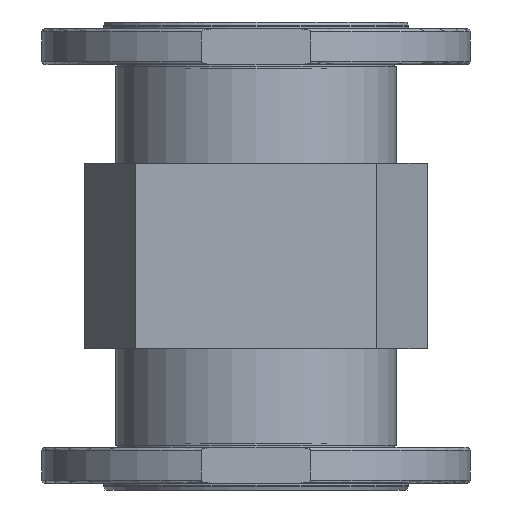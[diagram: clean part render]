
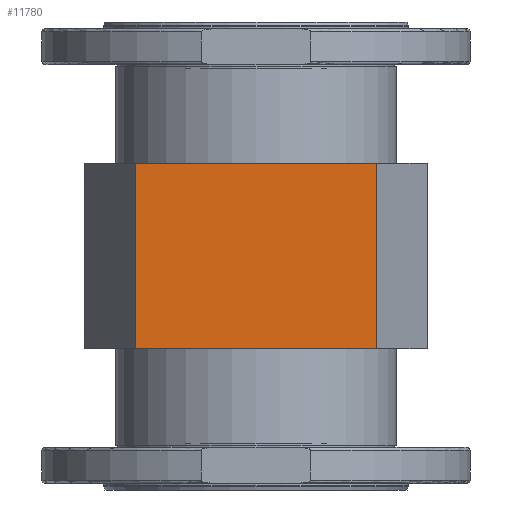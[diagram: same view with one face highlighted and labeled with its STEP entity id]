
A CAD part, front view. The second image highlights one B-rep face of the part: STEP entity #11780.
In plain terms, the highlighted planar face has unit normal (0, -1, 0).
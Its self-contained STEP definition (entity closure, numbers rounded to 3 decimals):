
#292 = CARTESIAN_POINT ( 'NONE',  ( -84.516, -135., 65. ) ) ;
#417 = CARTESIAN_POINT ( 'NONE',  ( -84.516, -135., -65. ) ) ;
#1361 = LINE ( 'NONE', #292, #15894 ) ;
#1367 = VECTOR ( 'NONE', #1883, 1000. ) ;
#1512 = EDGE_CURVE ( 'NONE', #17947, #4610, #8585, .T. ) ;
#1552 = ORIENTED_EDGE ( 'NONE', *, *, #1512, .T. ) ;
#1883 = DIRECTION ( 'NONE',  ( 0., 0., -1. ) ) ;
#2193 = DIRECTION ( 'NONE',  ( 1., 0., 0. ) ) ;
#2338 = EDGE_CURVE ( 'NONE', #14047, #17947, #18290, .T. ) ;
#2382 = CARTESIAN_POINT ( 'NONE',  ( 84.516, -135., -65. ) ) ;
#3549 = VECTOR ( 'NONE', #5037, 1000. ) ;
#3800 = CARTESIAN_POINT ( 'NONE',  ( 84.516, -135., 65. ) ) ;
#4610 = VERTEX_POINT ( 'NONE', #2382 ) ;
#5037 = DIRECTION ( 'NONE',  ( 1., 0., 0. ) ) ;
#5300 = CARTESIAN_POINT ( 'NONE',  ( -84.516, -135., -65. ) ) ;
#6090 = CARTESIAN_POINT ( 'NONE',  ( -84.516, -135., 65. ) ) ;
#6334 = ORIENTED_EDGE ( 'NONE', *, *, #2338, .T. ) ;
#7417 = CARTESIAN_POINT ( 'NONE',  ( -84.516, -135., 65. ) ) ;
#7999 = DIRECTION ( 'NONE',  ( -1., 0., 0. ) ) ;
#8037 = CARTESIAN_POINT ( 'NONE',  ( 84.516, -135., 65. ) ) ;
#8188 = ORIENTED_EDGE ( 'NONE', *, *, #23304, .F. ) ;
#8585 = LINE ( 'NONE', #417, #3549 ) ;
#9799 = VERTEX_POINT ( 'NONE', #8037 ) ;
#11780 = ADVANCED_FACE ( 'NONE', ( #13928 ), #21146, .F. ) ;
#12256 = ORIENTED_EDGE ( 'NONE', *, *, #18651, .F. ) ;
#13598 = DIRECTION ( 'NONE',  ( 0., 0., -1. ) ) ;
#13928 = FACE_OUTER_BOUND ( 'NONE', #18796, .T. ) ;
#14047 = VERTEX_POINT ( 'NONE', #7417 ) ;
#15507 = CARTESIAN_POINT ( 'NONE',  ( -84.516, -135., 65. ) ) ;
#15894 = VECTOR ( 'NONE', #2193, 1000. ) ;
#16461 = LINE ( 'NONE', #3800, #1367 ) ;
#17719 = VECTOR ( 'NONE', #13598, 1000. ) ;
#17947 = VERTEX_POINT ( 'NONE', #5300 ) ;
#18290 = LINE ( 'NONE', #15507, #17719 ) ;
#18651 = EDGE_CURVE ( 'NONE', #14047, #9799, #1361, .T. ) ;
#18796 = EDGE_LOOP ( 'NONE', ( #1552, #8188, #12256, #6334 ) ) ;
#19302 = DIRECTION ( 'NONE',  ( 0., 1., 0. ) ) ;
#21146 = PLANE ( 'NONE',  #23849 ) ;
#23304 = EDGE_CURVE ( 'NONE', #9799, #4610, #16461, .T. ) ;
#23849 = AXIS2_PLACEMENT_3D ( 'NONE', #6090, #19302, #7999 ) ;
